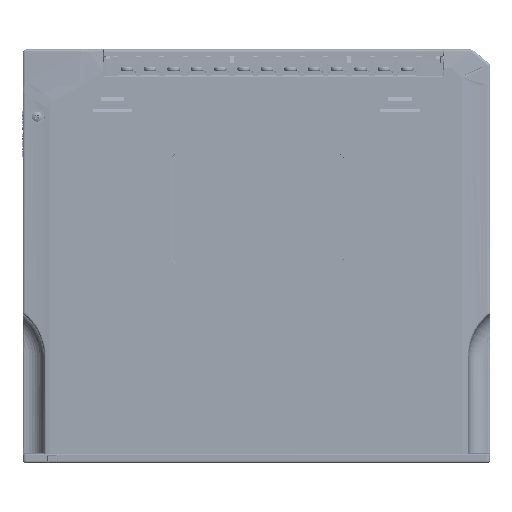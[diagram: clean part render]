
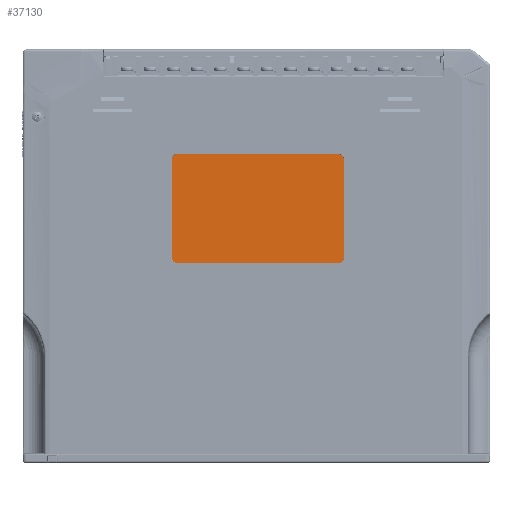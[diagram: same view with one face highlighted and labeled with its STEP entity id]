
A CAD part, left-side view. The second image highlights one B-rep face of the part: STEP entity #37130.
In plain terms, the highlighted planar face has unit normal (-1, 0, 0).
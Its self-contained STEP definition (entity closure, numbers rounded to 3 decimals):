
#1314 = EDGE_CURVE ( 'NONE', #57497, #315278, #443674, .T. ) ;
#9560 = LINE ( 'NONE', #403714, #456069 ) ;
#17993 = EDGE_CURVE ( 'NONE', #340990, #316990, #333352, .T. ) ;
#29568 = EDGE_CURVE ( 'NONE', #394494, #330343, #457606, .T. ) ;
#37130 = ADVANCED_FACE ( 'NONE', ( #207139 ), #438158, .T. ) ;
#40094 = AXIS2_PLACEMENT_3D ( 'NONE', #535567, #193191, #359601 ) ;
#53241 = CARTESIAN_POINT ( 'NONE',  ( -87.422, -68.507, -115.95 ) ) ;
#57497 = VERTEX_POINT ( 'NONE', #227531 ) ;
#60194 = EDGE_CURVE ( 'NONE', #315278, #340990, #514506, .T. ) ;
#86055 = DIRECTION ( 'NONE',  ( -1., 0., 0. ) ) ;
#88237 = CARTESIAN_POINT ( 'NONE',  ( -87.422, -65.507, -58.35 ) ) ;
#97984 = CARTESIAN_POINT ( 'NONE',  ( -87.422, 24.093, -118.95 ) ) ;
#100054 = ORIENTED_EDGE ( 'NONE', *, *, #293920, .T. ) ;
#104345 = EDGE_LOOP ( 'NONE', ( #340805, #100054, #350972, #224846, #549037, #466926, #321512, #301263 ) ) ;
#109827 = CARTESIAN_POINT ( 'NONE',  ( -87.422, 27.093, -115.95 ) ) ;
#123852 = CARTESIAN_POINT ( 'NONE',  ( -87.422, 24.093, -61.35 ) ) ;
#145549 = EDGE_CURVE ( 'NONE', #294017, #262313, #211304, .T. ) ;
#146576 = DIRECTION ( 'NONE',  ( 0., 1., 0. ) ) ;
#151335 = EDGE_CURVE ( 'NONE', #330343, #57497, #9560, .T. ) ;
#172665 = AXIS2_PLACEMENT_3D ( 'NONE', #354953, #436482, #442145 ) ;
#179436 = AXIS2_PLACEMENT_3D ( 'NONE', #260379, #481763, #220704 ) ;
#193191 = DIRECTION ( 'NONE',  ( -1., 0., 0. ) ) ;
#201975 = CARTESIAN_POINT ( 'NONE',  ( -87.422, -68.507, -61.35 ) ) ;
#207139 = FACE_OUTER_BOUND ( 'NONE', #104345, .T. ) ;
#211304 = CIRCLE ( 'NONE', #40094, 3. ) ;
#220704 = DIRECTION ( 'NONE',  ( 0., -1., 0. ) ) ;
#224846 = ORIENTED_EDGE ( 'NONE', *, *, #404266, .T. ) ;
#227531 = CARTESIAN_POINT ( 'NONE',  ( -87.422, 24.093, -58.35 ) ) ;
#247264 = LINE ( 'NONE', #326162, #498123 ) ;
#259328 = AXIS2_PLACEMENT_3D ( 'NONE', #123852, #86055, #431936 ) ;
#260379 = CARTESIAN_POINT ( 'NONE',  ( -87.422, 24.093, -115.95 ) ) ;
#262313 = VERTEX_POINT ( 'NONE', #53241 ) ;
#281209 = CARTESIAN_POINT ( 'NONE',  ( -87.422, -68.507, -61.35 ) ) ;
#285058 = DIRECTION ( 'NONE',  ( -1., 0., 0. ) ) ;
#288354 = CARTESIAN_POINT ( 'NONE',  ( -87.422, -65.507, -118.95 ) ) ;
#293920 = EDGE_CURVE ( 'NONE', #316990, #294017, #247264, .T. ) ;
#294017 = VERTEX_POINT ( 'NONE', #288354 ) ;
#301263 = ORIENTED_EDGE ( 'NONE', *, *, #60194, .T. ) ;
#310216 = DIRECTION ( 'NONE',  ( 0., 0., 1. ) ) ;
#315278 = VERTEX_POINT ( 'NONE', #450561 ) ;
#316990 = VERTEX_POINT ( 'NONE', #97984 ) ;
#318406 = VECTOR ( 'NONE', #333805, 1000. ) ;
#321512 = ORIENTED_EDGE ( 'NONE', *, *, #1314, .T. ) ;
#326162 = CARTESIAN_POINT ( 'NONE',  ( -87.422, 24.093, -118.95 ) ) ;
#330343 = VERTEX_POINT ( 'NONE', #88237 ) ;
#333352 = CIRCLE ( 'NONE', #455168, 3. ) ;
#333805 = DIRECTION ( 'NONE',  ( 0., 0., -1. ) ) ;
#340805 = ORIENTED_EDGE ( 'NONE', *, *, #17993, .T. ) ;
#340990 = VERTEX_POINT ( 'NONE', #109827 ) ;
#350972 = ORIENTED_EDGE ( 'NONE', *, *, #145549, .T. ) ;
#354953 = CARTESIAN_POINT ( 'NONE',  ( -87.422, -65.507, -61.35 ) ) ;
#359601 = DIRECTION ( 'NONE',  ( 0., -1., 0. ) ) ;
#371403 = DIRECTION ( 'NONE',  ( 0., -1., 0. ) ) ;
#394494 = VERTEX_POINT ( 'NONE', #201975 ) ;
#403714 = CARTESIAN_POINT ( 'NONE',  ( -87.422, 24.093, -58.35 ) ) ;
#404266 = EDGE_CURVE ( 'NONE', #262313, #394494, #505756, .T. ) ;
#418966 = CARTESIAN_POINT ( 'NONE',  ( -87.422, 27.093, -61.35 ) ) ;
#431936 = DIRECTION ( 'NONE',  ( 0., -1., 0. ) ) ;
#436482 = DIRECTION ( 'NONE',  ( -1., 0., 0. ) ) ;
#438158 = PLANE ( 'NONE',  #179436 ) ;
#442145 = DIRECTION ( 'NONE',  ( 0., 1., 0. ) ) ;
#443674 = CIRCLE ( 'NONE', #259328, 3. ) ;
#450561 = CARTESIAN_POINT ( 'NONE',  ( -87.422, 27.093, -61.35 ) ) ;
#455168 = AXIS2_PLACEMENT_3D ( 'NONE', #495244, #285058, #544141 ) ;
#456069 = VECTOR ( 'NONE', #146576, 1000. ) ;
#457606 = CIRCLE ( 'NONE', #172665, 3. ) ;
#466926 = ORIENTED_EDGE ( 'NONE', *, *, #151335, .T. ) ;
#481763 = DIRECTION ( 'NONE',  ( -1., 0., 0. ) ) ;
#495244 = CARTESIAN_POINT ( 'NONE',  ( -87.422, 24.093, -115.95 ) ) ;
#498123 = VECTOR ( 'NONE', #371403, 1000. ) ;
#505756 = LINE ( 'NONE', #281209, #546295 ) ;
#514506 = LINE ( 'NONE', #418966, #318406 ) ;
#535567 = CARTESIAN_POINT ( 'NONE',  ( -87.422, -65.507, -115.95 ) ) ;
#544141 = DIRECTION ( 'NONE',  ( 0., -1., 0. ) ) ;
#546295 = VECTOR ( 'NONE', #310216, 1000. ) ;
#549037 = ORIENTED_EDGE ( 'NONE', *, *, #29568, .T. ) ;
